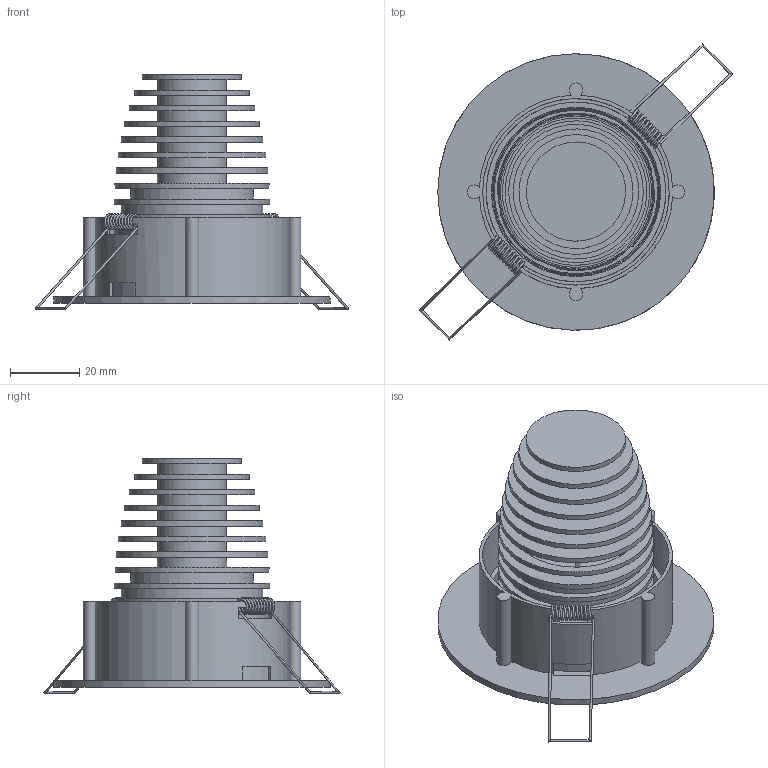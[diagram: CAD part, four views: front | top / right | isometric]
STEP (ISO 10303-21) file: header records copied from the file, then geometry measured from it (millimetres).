
FILE_DESCRIPTION(/* description */ (''),/* implementation_level */ '2;1');
FILE_NAME(/* name */ 'C:/Users/elena/Desktop/Kiwi Recessed.step',/* time_stamp */ '2020-07-03T11:43:08+02:00',/* author */ (''),/* organization */ (''),/* preprocessor_version */ 'ST-DEVELOPER v18.1',/* originating_system */ 'Autodesk Translation Framework v9.3.0.1241',/* authorisation */ '');
FILE_SCHEMA (('AUTOMOTIVE_DESIGN { 1 0 10303 214 3 1 1 }'));
Length unit declared in the file: millimetre
Products named in the file (1): (Unsaved)
Bounding box: 90.6 x 85.64 x 67.92 mm (x, y, z)
Volume: 62207.4 mm3; surface area: 50138 mm2
Topology: 5 solids, 58 shells, 521 faces, 1336 edges, 858 vertices
Faces by surface type: bspline 139, plane 117, torus 101, cylinder 93, cone 64, sphere 7
Full cylindrical faces by diameter (mm): 0.624 x8, 5 x1, 20 x7, 28.712 x1, 32.995 x1, 35.5 x1, 36.333 x1, 38.971 x1, 39 x1, 41 x5, 41.044 x1, 42.634 x1, 43.794 x1, 44.557 x1, 45 x5, 45.088 x1, 47.9 x1, 49 x1, 52 x2, 54 x1, 80 x1
Entity records: 29037 total; most frequent: CARTESIAN_POINT 16962, ORIENTED_EDGE 2482, DIRECTION 2452, EDGE_CURVE 1332, AXIS2_PLACEMENT_3D 1031, VERTEX_POINT 859, CIRCLE 597, EDGE_LOOP 529
